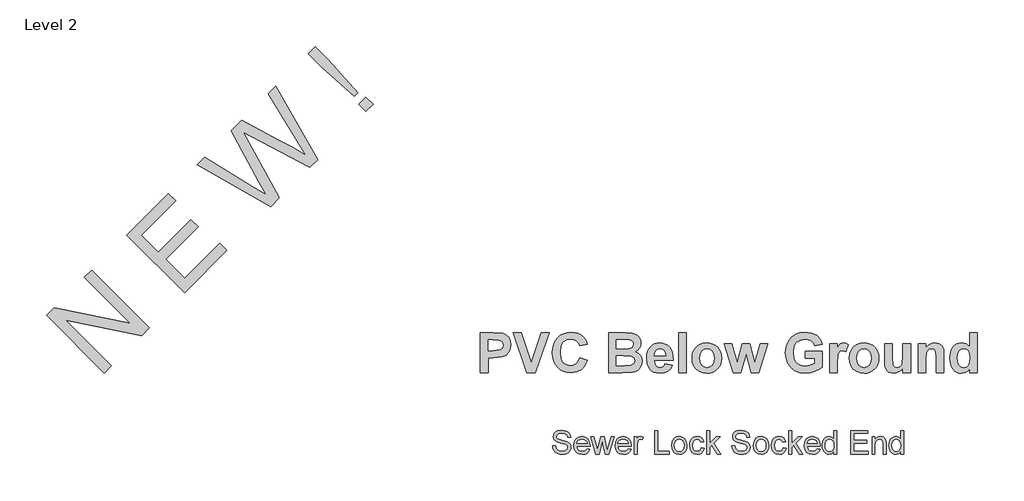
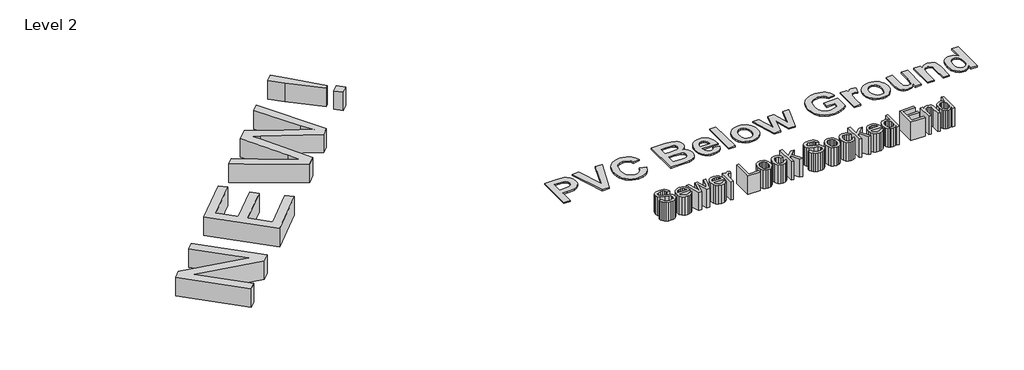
# One storey, part 2 of 2: 3 proxies.
"""IFC4 building model written with IfcOpenShell, lengths in millimetres."""

from ifc_helpers import new_model, si_unit, origin, origin_with_axes, place, context, project, spatial, polyline, outline, extrude, element, save

model = new_model("IFC4")

# Units and contexts
model_context = context("Model", 3, world=origin())
ifc_project = project(units=[si_unit("LENGTHUNIT", "METRE", prefix="MILLI")], contexts=[model_context])

# Site, building, storey
site = spatial("IfcSite", under=ifc_project)
building = spatial("IfcBuilding", under=site)
storey = spatial("IfcBuildingStorey", under=building, Name="Level 2", Elevation=0.0)

# Proxies
placement = place(None, origin())
element("IfcBuildingElementProxy", 1, Name="Rockwell 500", ObjectType="Rockwell 500", at=placement, inside=storey, context=model_context, shape_type="SweptSolid", body=[
    extrude(outline(polyline([(16072.9553239, 8605.109565), (15702.809582, 8975.2553069), (15752.3310338, 9024.7767587), (16238.9606286, 8924.9205466), (15945.7177251, 9218.16345), (15991.9859429, 9264.4316678), (16362.1316848, 8894.2859259), (16312.610233, 8844.7644741), (15825.8902706, 8944.7110538), (16119.2235416, 8651.3777827), (16072.9553239, 8605.109565)])), origin_with_axes(), (0.0, 0.0, 1.0), 150.0),
    extrude(outline(polyline([(16587.6892463, 9119.8434873), (16217.5435043, 9489.9892293), (16483.5857563, 9756.0314813), (16529.8539741, 9709.7632635), (16310.0799398, 9489.9892293), (16419.966957, 9380.1022121), (16628.1739368, 9588.309192), (16674.4421545, 9542.0409742), (16466.2351747, 9333.8339944), (16587.6892463, 9212.3799228), (16813.2468077, 9437.9374843), (16859.5150255, 9391.6692666), (16587.6892463, 9119.8434873)])), origin_with_axes(), (0.0, 0.0, 1.0), 150.0),
    extrude(outline(polyline([(17139.7449927, 9671.8992338), (16668.6586273, 9941.1043522), (16716.3727268, 9988.8184518), (17018.2005535, 9804.1070513), (17111.3695623, 9747.0850876), (17064.288036, 9832.8439521), (16885.7216332, 10158.1673581), (16954.4913865, 10226.9371114), (17190.4412235, 10097.6210575), (17281.0573472, 10052.6857621), (17365.8447599, 10001.5602852), (17310.4494132, 10092.0182656), (17124.1113957, 10396.5571206), (17171.8254952, 10444.2712201), (17440.9402461, 9973.0944871), (17391.5091619, 9923.663403), (17017.2065098, 10120.4840636), (16964.9740296, 10147.9558179), (16999.0426196, 10086.0540031), (17195.5921774, 9727.7464185), (17139.7449927, 9671.8992338)])), origin_with_axes(), (0.0, 0.0, 1.0), 150.0),
    extrude(outline(polyline([(17674.9923631, 10380.6524208), (17463.6225169, 10568.8881582), (17380.0324751, 10652.4782), (17426.3006928, 10698.7464177), (17509.8907346, 10615.1563759), (17698.126472, 10403.7865296), (17674.9923631, 10380.6524208)])), origin_with_axes(), (0.0, 0.0, 1.0), 150.0),
    extrude(outline(polyline([(17750.178217, 10282.3324581), (17703.9099992, 10328.6006758), (17750.178217, 10374.8688935), (17796.4464347, 10328.6006758), (17750.178217, 10282.3324581)])), origin_with_axes(), (0.0, 0.0, 1.0), 150.0),
])
element("IfcBuildingElementProxy", 2, Name="Arial 150", ObjectType="Arial 150", at=placement, inside=storey, context=model_context, shape_type="SweptSolid", body=[
    extrude(outline(polyline([(18947.1802626, 8137.8240171), (18966.0158207, 8137.8240171), (18972.0858736, 8118.9700649), (18986.911518, 8107.0506882), (19009.4994725, 8102.5073456), (19029.1811593, 8105.9470423), (19041.8914822, 8115.4016095), (19046.0669429, 8128.0383561), (19042.9399459, 8139.7921858), (19030.1376525, 8148.3454422), (19002.7120497, 8155.5375352), (18973.1895196, 8164.8265556), (18957.1682587, 8178.8428596), (18951.8891521, 8197.5680532), (18953.5216285, 8208.5999145), (18958.4190575, 8218.8868148), (18966.4526806, 8227.6056181), (18977.493739, 8233.9331884), (19005.4159824, 8239.0651422), (19035.214424, 8233.6940651), (19046.63716, 8227.0629921), (19055.0800517, 8217.9119275), (19060.4235377, 8206.8110883), (19062.5480562, 8194.3306916), (19043.7124981, 8194.3306916), (19040.2544073, 8205.5694865), (19033.0439202, 8213.6812845), (19021.7775341, 8218.5925092), (19006.1517464, 8220.2295841), (18990.1580766, 8218.6109033), (18979.1859961, 8213.7548609), (18972.8400317, 8206.6087532), (18970.7247103, 8198.1198761), (18972.2238294, 8190.8817979), (18976.7211868, 8185.0600653), (19007.4761216, 8174.5386403), (19040.8062303, 8165.084073), (19051.5437861, 8158.2506649), (19059.0347832, 8149.8169702), (19063.4355716, 8139.8749593), (19064.902501, 8128.5166027), (19063.2148424, 8116.9053272), (19058.1518664, 8105.9838305), (19049.9205068, 8096.5844455), (19038.7276971, 8089.5395053), (19025.2678146, 8085.1387169), (19010.2352365, 8083.6717874), (18991.781356, 8085.25368), (18976.5924281, 8089.9993578), (18964.493709, 8097.9272148), (18955.3104547, 8109.0556451), (18949.4151457, 8122.6120966), (18947.1802626, 8137.8240171)])), origin_with_axes(), (0.0, 0.0, 1.0), 150.0),
    extrude(outline(polyline([(19168.2773417, 8118.988459), (19186.7450178, 8116.6340142), (19180.0909522, 8102.7188777), (19169.4729581, 8092.3170143), (19155.1301589, 8085.8330942), (19137.3016777, 8083.6717874), (19115.2011668, 8087.4011912), (19098.1958216, 8098.5894024), (19087.3524998, 8116.509854), (19083.7380592, 8140.4359793), (19087.389288, 8165.1668464), (19098.3429744, 8183.6621137), (19115.1183934, 8195.1952143), (19136.2348199, 8199.0395811), (19156.6936573, 8195.2044113), (19173.0414135, 8183.6989019), (19183.7605751, 8165.2404228), (19187.333629, 8140.5463439), (19187.2232644, 8135.4695724), (19102.5736173, 8135.4695724), (19105.8339715, 8121.3704949), (19113.4077421, 8111.0054197), (19124.3384359, 8104.6318641), (19137.6695597, 8102.5073456), (19156.1372358, 8106.4436829), (19168.2773417, 8118.988459)]), holes=[polyline([(19102.5736173, 8154.3051305), (19168.4980709, 8154.3051305), (19165.950488, 8164.2563385), (19160.95649, 8171.3748551), (19149.9752124, 8177.996731), (19136.1612435, 8180.204023), (19123.4647161, 8178.4427879), (19112.9662837, 8173.1590828), (19105.6684246, 8164.9231246), (19102.5736173, 8154.3051305)])]), origin_with_axes(), (0.0, 0.0, 1.0), 150.0),
    extrude(outline(polyline([(19224.5264987, 8086.0262322), (19190.8652962, 8196.6851364), (19210.4366183, 8196.6851364), (19229.5296939, 8132.1218462), (19235.2318648, 8109.0556451), (19239.9039661, 8131.2757176), (19255.0974925, 8196.6851364), (19277.5382942, 8196.6851364), (19292.6582442, 8131.4596586), (19296.8153108, 8111.3365135), (19302.7749991, 8132.5633046), (19321.9048628, 8196.6851364), (19341.5497614, 8196.6851364), (19307.6310414, 8086.0262322), (19284.8591459, 8086.0262322), (19270.4013835, 8150.9206162), (19266.2075288, 8171.1541259), (19247.5559116, 8086.0262322), (19224.5264987, 8086.0262322)])), origin_with_axes(), (0.0, 0.0, 1.0), 150.0),
    extrude(outline(polyline([(19431.9751558, 8118.988459), (19450.442832, 8116.6340142), (19443.7887664, 8102.7188777), (19433.1707723, 8092.3170143), (19418.827973, 8085.8330942), (19400.9994918, 8083.6717874), (19378.898981, 8087.4011912), (19361.8936357, 8098.5894024), (19351.0503139, 8116.509854), (19347.4358733, 8140.4359793), (19351.0871021, 8165.1668464), (19362.0407885, 8183.6621137), (19378.8162075, 8195.1952143), (19399.932634, 8199.0395811), (19420.3914715, 8195.2044113), (19436.7392276, 8183.6989019), (19447.4583893, 8165.2404228), (19451.0314432, 8140.5463439), (19450.9210786, 8135.4695724), (19366.2714315, 8135.4695724), (19369.5317856, 8121.3704949), (19377.1055562, 8111.0054197), (19388.03625, 8104.6318641), (19401.3673738, 8102.5073456), (19419.83505, 8106.4436829), (19431.9751558, 8118.988459)]), holes=[polyline([(19366.2714315, 8154.3051305), (19432.195885, 8154.3051305), (19429.6483022, 8164.2563385), (19424.6543041, 8171.3748551), (19413.6730265, 8177.996731), (19399.8590576, 8180.204023), (19387.1625303, 8178.4427879), (19376.6640978, 8173.1590828), (19369.3662388, 8164.9231246), (19366.2714315, 8154.3051305)])]), origin_with_axes(), (0.0, 0.0, 1.0), 150.0),
    extrude(outline(polyline([(19469.8670013, 8086.0262322), (19469.8670013, 8196.6851364), (19486.3481147, 8196.6851364), (19486.3481147, 8180.3143876), (19498.0467621, 8195.3975494), (19509.818986, 8199.0395811), (19528.7281205, 8193.2270456), (19522.4373384, 8176.341262), (19509.1935866, 8180.204023), (19498.5434028, 8176.4884148), (19491.75598, 8166.187719), (19488.7025595, 8144.1883757), (19488.7025595, 8086.0262322), (19469.8670013, 8086.0262322)])), origin_with_axes(), (0.0, 0.0, 1.0), 150.0),
    extrude(outline(polyline([(19601.7159084, 8086.0262322), (19601.7159084, 8236.7106974), (19620.5514665, 8236.7106974), (19620.5514665, 8104.8617904), (19695.8936991, 8104.8617904), (19695.8936991, 8086.0262322), (19601.7159084, 8086.0262322)])), origin_with_axes(), (0.0, 0.0, 1.0), 150.0),
    extrude(outline(polyline([(19710.0203678, 8141.3556843), (19714.0946609, 8168.036326), (19726.3175401, 8186.7891107), (19741.419096, 8195.9769635), (19759.5004961, 8199.0395811), (19779.2879489, 8195.3101774), (19795.0930791, 8184.1219662), (19805.4535558, 8166.3578644), (19808.9070481, 8142.9007887), (19807.3803378, 8123.8720925), (19802.8002069, 8109.3867389), (19795.3000128, 8098.5388186), (19785.0131125, 8090.4224221), (19772.7948317, 8085.3594461), (19759.5004961, 8083.6717874), (19739.47392, 8087.3873956), (19723.6871839, 8098.5342201), (19713.4370718, 8116.6708024), (19710.0203678, 8141.3556843)]), holes=[polyline([(19728.8559259, 8141.3924725), (19731.0356267, 8124.3457405), (19737.5747292, 8112.2010362), (19747.4155726, 8104.9307682), (19759.5004961, 8102.5073456), (19771.5302374, 8104.9445638), (19781.3526866, 8112.2562185), (19787.8917891, 8124.5618712), (19790.0714899, 8141.9810837), (19787.8779935, 8158.5311749), (19781.2975043, 8170.5103324), (19771.4612595, 8177.7806003), (19759.5004961, 8180.204023), (19747.4155726, 8177.7897974), (19737.5747292, 8170.5471206), (19731.0356267, 8158.4300074), (19728.8559259, 8141.3924725)])]), origin_with_axes(), (0.0, 0.0, 1.0), 150.0),
    extrude(outline(polyline([(19900.7303941, 8126.0517933), (19919.5659522, 8123.6973485), (19914.3144367, 8106.9449222), (19904.4460022, 8094.285183), (19890.8895507, 8086.3251363), (19874.5739842, 8083.6717874), (19854.538211, 8087.3736), (19838.8710366, 8098.4790378), (19828.7588802, 8116.500657), (19825.3881614, 8140.9510141), (19826.8274998, 8157.7126375), (19831.1455147, 8172.2393778), (19838.4111841, 8183.9702149), (19848.6934858, 8192.3441288), (19860.9945401, 8197.3657181), (19874.3164668, 8199.0395811), (19890.2319616, 8196.7403187), (19902.9560801, 8189.8425313), (19912.0841521, 8178.7141009), (19917.2115074, 8163.7229096), (19898.3759493, 8161.3684648), (19889.6387519, 8175.4767393), (19874.4636196, 8180.204023), (19862.2913241, 8177.8771694), (19852.6298232, 8170.8966085), (19846.3252455, 8158.8852614), (19844.2237196, 8141.4660489), (19846.2792602, 8123.8123116), (19852.4458822, 8111.7595778), (19861.9326391, 8104.8204036), (19873.9485848, 8102.5073456), (19883.7020562, 8103.9512824), (19891.6988911, 8108.2830929), (19897.5160251, 8115.6131417), (19900.7303941, 8126.0517933)])), origin_with_axes(), (0.0, 0.0, 1.0), 150.0),
    extrude(outline(polyline([(19936.0470656, 8086.0262322), (19936.0470656, 8236.7106974), (19954.8826238, 8236.7106974), (19954.8826238, 8155.7398703), (19997.1154768, 8196.6851364), (20023.1615221, 8196.6851364), (19980.4136342, 8155.2248355), (20025.5159668, 8086.0262322), (20003.5166235, 8086.0262322), (19966.912365, 8142.1282365), (19954.8826238, 8130.4663772), (19954.8826238, 8086.0262322), (19936.0470656, 8086.0262322)])), origin_with_axes(), (0.0, 0.0, 1.0), 150.0),
    extrude(outline(polyline([(20096.1493099, 8137.8240171), (20114.9848681, 8137.8240171), (20121.054921, 8118.9700649), (20135.8805654, 8107.0506882), (20158.4685199, 8102.5073456), (20178.1502066, 8105.9470423), (20190.8605296, 8115.4016095), (20195.0359902, 8128.0383561), (20191.9089932, 8139.7921858), (20179.1066998, 8148.3454422), (20151.6810971, 8155.5375352), (20122.158567, 8164.8265556), (20106.1373061, 8178.8428596), (20100.8581994, 8197.5680532), (20102.4906758, 8208.5999145), (20107.3881049, 8218.8868148), (20115.4217279, 8227.6056181), (20126.4627863, 8233.9331884), (20154.3850297, 8239.0651422), (20184.1834713, 8233.6940651), (20195.6062073, 8227.0629921), (20204.0490991, 8217.9119275), (20209.3925851, 8206.8110883), (20211.5171036, 8194.3306916), (20192.6815454, 8194.3306916), (20189.2234547, 8205.5694865), (20182.0129676, 8213.6812845), (20170.7465815, 8218.5925092), (20155.1207937, 8220.2295841), (20139.127124, 8218.6109033), (20128.1550435, 8213.7548609), (20121.8090791, 8206.6087532), (20119.6937576, 8198.1198761), (20121.1928767, 8190.8817979), (20125.6902341, 8185.0600653), (20156.4451689, 8174.5386403), (20189.7752777, 8165.084073), (20200.5128334, 8158.2506649), (20208.0038305, 8149.8169702), (20212.4046189, 8139.8749593), (20213.8715484, 8128.5166027), (20212.1838897, 8116.9053272), (20207.1209137, 8105.9838305), (20198.8895541, 8096.5844455), (20187.6967444, 8089.5395053), (20174.2368619, 8085.1387169), (20159.2042839, 8083.6717874), (20140.7504033, 8085.25368), (20125.5614754, 8089.9993578), (20113.4627563, 8097.9272148), (20104.279502, 8109.0556451), (20098.384193, 8122.6120966), (20096.1493099, 8137.8240171)])), origin_with_axes(), (0.0, 0.0, 1.0), 150.0),
    extrude(outline(polyline([(20235.0615513, 8141.3556843), (20239.1358444, 8168.036326), (20251.3587237, 8186.7891107), (20266.4602796, 8195.9769635), (20284.5416796, 8199.0395811), (20304.3291324, 8195.3101774), (20320.1342627, 8184.1219662), (20330.4947394, 8166.3578644), (20333.9482316, 8142.9007887), (20332.4215213, 8123.8720925), (20327.8413905, 8109.3867389), (20320.3411963, 8098.5388186), (20310.054296, 8090.4224221), (20297.8360152, 8085.3594461), (20284.5416796, 8083.6717874), (20264.5151035, 8087.3873956), (20248.7283674, 8098.5342201), (20238.4782553, 8116.6708024), (20235.0615513, 8141.3556843)]), holes=[polyline([(20253.8971094, 8141.3924725), (20256.0768103, 8124.3457405), (20262.6159127, 8112.2010362), (20272.4567561, 8104.9307682), (20284.5416796, 8102.5073456), (20296.5714209, 8104.9445638), (20306.3938701, 8112.2562185), (20312.9329726, 8124.5618712), (20315.1126734, 8141.9810837), (20312.919177, 8158.5311749), (20306.3386878, 8170.5103324), (20296.502443, 8177.7806003), (20284.5416796, 8180.204023), (20272.4567561, 8177.7897974), (20262.6159127, 8170.5471206), (20256.0768103, 8158.4300074), (20253.8971094, 8141.3924725)])]), origin_with_axes(), (0.0, 0.0, 1.0), 150.0),
    extrude(outline(polyline([(20425.7715776, 8126.0517933), (20444.6071357, 8123.6973485), (20439.3556202, 8106.9449222), (20429.4871857, 8094.285183), (20415.9307342, 8086.3251363), (20399.6151677, 8083.6717874), (20379.5793946, 8087.3736), (20363.9122201, 8098.4790378), (20353.8000637, 8116.500657), (20350.429345, 8140.9510141), (20351.8686833, 8157.7126375), (20356.1866982, 8172.2393778), (20363.4523676, 8183.9702149), (20373.7346694, 8192.3441288), (20386.0357236, 8197.3657181), (20399.3576503, 8199.0395811), (20415.2731451, 8196.7403187), (20427.9972636, 8189.8425313), (20437.1253357, 8178.7141009), (20442.252691, 8163.7229096), (20423.4171328, 8161.3684648), (20414.6799354, 8175.4767393), (20399.5048031, 8180.204023), (20387.3325076, 8177.8771694), (20377.6710067, 8170.8966085), (20371.366429, 8158.8852614), (20369.2649031, 8141.4660489), (20371.3204438, 8123.8123116), (20377.4870657, 8111.7595778), (20386.9738227, 8104.8204036), (20398.9897683, 8102.5073456), (20408.7432397, 8103.9512824), (20416.7400746, 8108.2830929), (20422.5572086, 8115.6131417), (20425.7715776, 8126.0517933)])), origin_with_axes(), (0.0, 0.0, 1.0), 150.0),
    extrude(outline(polyline([(20461.0882491, 8086.0262322), (20461.0882491, 8236.7106974), (20479.9238073, 8236.7106974), (20479.9238073, 8155.7398703), (20522.1566603, 8196.6851364), (20548.2027056, 8196.6851364), (20505.4548177, 8155.2248355), (20550.5571503, 8086.0262322), (20528.557807, 8086.0262322), (20491.9535485, 8142.1282365), (20479.9238073, 8130.4663772), (20479.9238073, 8086.0262322), (20461.0882491, 8086.0262322)])), origin_with_axes(), (0.0, 0.0, 1.0), 150.0),
    extrude(outline(polyline([(20644.5142119, 8118.988459), (20662.9818881, 8116.6340142), (20656.3278225, 8102.7188777), (20645.7098284, 8092.3170143), (20631.3670291, 8085.8330942), (20613.5385479, 8083.6717874), (20591.4380371, 8087.4011912), (20574.4326918, 8098.5894024), (20563.58937, 8116.509854), (20559.9749294, 8140.4359793), (20563.6261582, 8165.1668464), (20574.5798446, 8183.6621137), (20591.3552636, 8195.1952143), (20612.4716901, 8199.0395811), (20632.9305276, 8195.2044113), (20649.2782837, 8183.6989019), (20659.9974454, 8165.2404228), (20663.5704993, 8140.5463439), (20663.4601347, 8135.4695724), (20578.8104876, 8135.4695724), (20582.0708418, 8121.3704949), (20589.6446123, 8111.0054197), (20600.5753061, 8104.6318641), (20613.9064299, 8102.5073456), (20632.3741061, 8106.4436829), (20644.5142119, 8118.988459)]), holes=[polyline([(20578.8104876, 8154.3051305), (20644.7349411, 8154.3051305), (20642.1873583, 8164.2563385), (20637.1933602, 8171.3748551), (20626.2120826, 8177.996731), (20612.3981137, 8180.204023), (20599.7015864, 8178.4427879), (20589.2031539, 8173.1590828), (20581.9052949, 8164.9231246), (20578.8104876, 8154.3051305)])]), origin_with_axes(), (0.0, 0.0, 1.0), 150.0),
    extrude(outline(polyline([(20750.6849557, 8086.0262322), (20750.6849557, 8103.7949326), (20738.2229531, 8088.7025737), (20720.9968787, 8083.6717874), (20708.8199847, 8085.4928033), (20697.6731602, 8090.955851), (20688.236987, 8099.6792528), (20681.1920468, 8111.2813312), (20676.805054, 8125.2930367), (20675.3427231, 8141.2453197), (20680.7321943, 8171.2277023), (20687.4644348, 8183.1194878), (20696.8822139, 8191.8658822), (20708.2727602, 8197.2461564), (20720.9233023, 8199.0395811), (20738.2873325, 8193.9076273), (20750.6849557, 8180.571905), (20750.6849557, 8236.7106974), (20769.5205139, 8236.7106974), (20769.5205139, 8086.0262322), (20750.6849557, 8086.0262322)]), holes=[polyline([(20694.1782813, 8141.3188961), (20696.3027998, 8124.2813612), (20702.6763553, 8112.164248), (20711.9377846, 8104.9215712), (20722.7259241, 8102.5073456), (20733.5094651, 8104.8112066), (20742.5363695, 8111.7227896), (20748.6478092, 8123.3708533), (20750.6849557, 8139.8841563), (20748.611021, 8157.9379652), (20742.3892167, 8170.4551501), (20733.132386, 8177.7668048), (20721.9533719, 8180.204023), (20711.0548678, 8177.8633738), (20702.1245324, 8170.8414262), (20696.164844, 8158.7794953), (20694.1782813, 8141.3188961)])]), origin_with_axes(), (0.0, 0.0, 1.0), 150.0),
    extrude(outline(polyline([(20858.9894151, 8086.0262322), (20858.9894151, 8236.7106974), (20967.2938745, 8236.7106974), (20967.2938745, 8217.8751393), (20877.8249732, 8217.8751393), (20877.8249732, 8173.1406887), (20962.5849849, 8173.1406887), (20962.5849849, 8154.3051305), (20877.8249732, 8154.3051305), (20877.8249732, 8104.8617904), (20969.6483192, 8104.8617904), (20969.6483192, 8086.0262322), (20858.9894151, 8086.0262322)])), origin_with_axes(), (0.0, 0.0, 1.0), 150.0),
    extrude(outline(polyline([(20995.5472117, 8086.0262322), (20995.5472117, 8196.6851364), (21014.3827699, 8196.6851364), (21014.3827699, 8181.2340926), (21028.78535, 8194.588209), (21048.4486426, 8199.0395811), (21066.2357371, 8195.4527317), (21078.3758429, 8186.0349526), (21084.0228315, 8172.1841955), (21085.0161129, 8153.9740367), (21085.0161129, 8086.0262322), (21066.1805548, 8086.0262322), (21066.1805548, 8151.435651), (21064.010051, 8168.1007053), (21056.3397114, 8176.9114791), (21043.4086593, 8180.204023), (21032.3767979, 8178.355416), (21022.9728144, 8172.8095949), (21016.530281, 8162.0950318), (21014.3827699, 8144.7401986), (21014.3827699, 8086.0262322), (20995.5472117, 8086.0262322)])), origin_with_axes(), (0.0, 0.0, 1.0), 150.0),
    extrude(outline(polyline([(21179.1939037, 8086.0262322), (21179.1939037, 8103.7949326), (21166.7319011, 8088.7025737), (21149.5058267, 8083.6717874), (21137.3289326, 8085.4928033), (21126.1821082, 8090.955851), (21116.745935, 8099.6792528), (21109.7009948, 8111.2813312), (21105.314002, 8125.2930367), (21103.8516711, 8141.2453197), (21109.2411423, 8171.2277023), (21115.9733828, 8183.1194878), (21125.3911619, 8191.8658822), (21136.7817082, 8197.2461564), (21149.4322503, 8199.0395811), (21166.7962805, 8193.9076273), (21179.1939037, 8180.571905), (21179.1939037, 8236.7106974), (21198.0294619, 8236.7106974), (21198.0294619, 8086.0262322), (21179.1939037, 8086.0262322)]), holes=[polyline([(21122.6872292, 8141.3188961), (21124.8117478, 8124.2813612), (21131.1853033, 8112.164248), (21140.4467326, 8104.9215712), (21151.2348721, 8102.5073456), (21162.018413, 8104.8112066), (21171.0453175, 8111.7227896), (21177.1567572, 8123.3708533), (21179.1939037, 8139.8841563), (21177.119969, 8157.9379652), (21170.8981647, 8170.4551501), (21161.641334, 8177.7668048), (21150.4623199, 8180.204023), (21139.5638158, 8177.8633738), (21130.6334803, 8170.8414262), (21124.673792, 8158.7794953), (21122.6872292, 8141.3188961)])]), origin_with_axes(), (0.0, 0.0, 1.0), 150.0),
])
element("IfcBuildingElementProxy", 3, Name="Arial 250", ObjectType="Arial 250", at=placement, inside=storey, context=model_context, shape_type="SweptSolid", body=[
    extrude(outline(polyline([(18485.0135269, 8607.9195192), (18485.0135269, 8862.9843692), (18567.1884376, 8862.9843692), (18628.1079442, 8859.1887613), (18648.1534983, 8850.134655), (18664.6406701, 8834.3591597), (18675.6716555, 8812.4474317), (18679.3486507, 8784.9846272), (18677.1898987, 8763.499905), (18670.7136427, 8745.7317156), (18660.9083223, 8731.5298161), (18648.7623771, 8720.7439637), (18621.7186709, 8708.6929086), (18567.6312585, 8705.0870811), (18533.5973078, 8705.0870811), (18533.5973078, 8607.9195192), (18485.0135269, 8607.9195192)]), holes=[polyline([(18533.5973078, 8818.4492367), (18533.5973078, 8749.6222137), (18563.7723905, 8749.6222137), (18607.326991, 8753.4178216), (18624.5337468, 8765.3423563), (18629.207089, 8774.1276071), (18630.7648697, 8784.2255056), (18628.5744877, 8796.2923756), (18622.0033415, 8806.0502509), (18612.0952234, 8813.0404954), (18599.8939256, 8816.8044733), (18560.2298231, 8818.4492367), (18533.5973078, 8818.4492367)])]), origin_with_axes(), (0.0, 0.0, 1.0), 10.0),
    extrude(outline(polyline([(18781.5137629, 8607.9195192), (18695.5432443, 8862.9843692), (18746.7839508, 8862.9843692), (18810.9297241, 8672.6978938), (18875.2652777, 8862.9843692), (18926.3162038, 8862.9843692), (18835.7909557, 8607.9195192), (18781.5137629, 8607.9195192)])), origin_with_axes(), (0.0, 0.0, 1.0), 10.0),
    extrude(outline(polyline([(19120.6513276, 8705.0870811), (19169.2351086, 8688.8924875), (19153.9103417, 8653.1109756), (19143.3893911, 8639.1759548), (19130.962729, 8627.8780907), (19100.597866, 8612.9091621), (19063.0213479, 8607.9195192), (19038.6938736, 8610.0505949), (19016.6358565, 8616.4438219), (18996.8472966, 8627.0992003), (18979.328194, 8642.0167301), (18964.9918667, 8660.6310238), (18954.7516329, 8682.3766939), (18948.6074926, 8707.2537406), (18946.5594459, 8735.2621638), (18948.6252846, 8764.7967377), (18954.8228006, 8790.8361893), (18965.1519939, 8813.3805187), (18979.6128646, 8832.4297257), (18997.4423372, 8847.5686659), (19017.8773366, 8858.3821947), (19040.9178626, 8864.8703119), (19066.5639152, 8867.0330176), (19088.9896318, 8865.2498727), (19109.2012438, 8859.9004378), (19127.1987512, 8850.984713), (19142.982154, 8838.5026984), (19158.3069209, 8817.9906007), (19169.2351086, 8790.1086978), (19120.6513276, 8782.011401), (19113.2103547, 8798.8148734), (19100.5029758, 8811.6487726), (19083.5097229, 8819.785607), (19063.2111283, 8822.4978851), (19035.7641387, 8817.5715024), (19014.0263761, 8802.7923542), (19005.7649983, 8791.4154149), (18999.8640141, 8776.990128), (18995.1432268, 8738.9945116), (18999.7216788, 8698.9192183), (19005.4447439, 8683.9344747), (19013.4570349, 8672.318333), (19034.5305662, 8657.4205721), (19061.1235439, 8652.4546518), (19081.2007282, 8655.6255659), (19098.2888712, 8665.1383081), (19111.6762965, 8681.4673296), (19120.6513276, 8705.0870811)])), origin_with_axes(), (0.0, 0.0, 1.0), 10.0),
    extrude(outline(polyline([(19306.8891546, 8862.9843692), (19411.5846721, 8862.9843692), (19457.9227184, 8860.453964), (19485.2510952, 8849.8578919), (19496.2978957, 8840.4637624), (19505.3361869, 8828.4127074), (19511.3617145, 8814.2187154), (19513.3702236, 8798.395775), (19510.9742462, 8781.1573892), (19503.7863137, 8765.3739864), (19492.4864727, 8752.200064), (19477.7547696, 8742.7901195), (19496.3848783, 8733.6490305), (19510.1439569, 8719.7634316), (19518.6366296, 8702.0664099), (19521.4675205, 8681.4910521), (19519.4352887, 8664.4029091), (19513.3385936, 8647.8050321), (19503.7230536, 8633.0970515), (19491.1342874, 8621.6785978), (19475.4220523, 8613.7789889), (19456.4361053, 8609.6275428), (19394.0616157, 8607.9195192), (19306.8891546, 8607.9195192), (19306.8891546, 8862.9843692)]), holes=[polyline([(19355.4729355, 8818.4492367), (19355.4729355, 8761.7681589), (19392.5433726, 8761.7681589), (19433.662458, 8762.5905406), (19446.6070624, 8765.5479518), (19456.4677354, 8771.3836989), (19462.7067659, 8779.8131114), (19464.7864427, 8790.5515187), (19462.9914365, 8800.8233826), (19457.6064178, 8808.991847), (19448.6946468, 8814.7089814), (19436.3193835, 8817.626855), (19387.9886431, 8818.4492367), (19355.4729355, 8818.4492367)]), polyline([(19355.4729355, 8717.2330264), (19355.4729355, 8652.4546518), (19406.8401623, 8652.4546518), (19444.9227614, 8653.9728949), (19456.1672498, 8657.3652195), (19465.1027433, 8663.620065), (19470.9384905, 8672.6109112), (19472.8837395, 8684.2112378), (19471.3813114, 8694.2695987), (19466.874027, 8702.6831961), (19449.540751, 8713.7537191), (19400.3243687, 8717.2330264), (19355.4729355, 8717.2330264)])]), origin_with_axes(), (0.0, 0.0, 1.0), 10.0),
    extrude(outline(polyline([(19667.2188633, 8664.600597), (19715.8026443, 8656.5033002), (19703.9729997, 8633.8324506), (19686.8295041, 8617.3136488), (19664.5461228, 8607.2315653), (19637.2968211, 8603.8708708), (19615.2941567, 8605.8517037), (19596.3517011, 8611.7942023), (19580.4694543, 8621.6983666), (19567.6474164, 8635.5641967), (19554.2678986, 8664.2684813), (19549.8080594, 8699.6467098), (19551.2867649, 8721.4872702), (19555.7228816, 8740.8290554), (19563.1164095, 8757.6720654), (19573.4673485, 8772.0163002), (19586.0798372, 8783.4742915), (19600.2580142, 8791.658571), (19616.0018794, 8796.5691387), (19633.3114329, 8798.2059946), (19652.5464666, 8796.5256474), (19669.6385633, 8791.4846057), (19684.5877232, 8783.0828694), (19697.393946, 8771.3204388), (19707.598596, 8756.0866084), (19714.7430371, 8737.270673), (19718.8272693, 8714.8726327), (19719.8512927, 8688.8924875), (19598.3918403, 8688.8924875), (19601.5074018, 8668.427835), (19609.8419241, 8653.0872531), (19622.1302046, 8643.5033432), (19637.1070407, 8640.3087065), (19647.3077369, 8641.7478745), (19655.7687795, 8646.0653785), (19662.4269084, 8653.5775191), (19667.2188633, 8664.600597)]), holes=[polyline([(19671.2675117, 8717.2330264), (19668.3101006, 8736.4403838), (19660.4500292, 8750.4129653), (19649.0315755, 8758.9293605), (19635.3990172, 8761.7681589), (19621.0073373, 8758.7791177), (19609.335843, 8749.8119941), (19601.6813671, 8735.6575397), (19599.214222, 8717.2330264), (19671.2675117, 8717.2330264)])]), origin_with_axes(), (0.0, 0.0, 1.0), 10.0),
    extrude(outline(polyline([(19756.2891284, 8607.9195192), (19756.2891284, 8862.9843692), (19804.8729093, 8862.9843692), (19804.8729093, 8607.9195192), (19756.2891284, 8607.9195192)])), origin_with_axes(), (0.0, 0.0, 1.0), 10.0),
    extrude(outline(polyline([(19841.3107451, 8703.6953582), (19844.3076938, 8727.7895608), (19853.29854, 8751.1088268), (19867.7772025, 8771.3283463), (19887.2376005, 8786.1233095), (19910.4698838, 8795.1853233), (19936.2642024, 8798.2059946), (19956.2563808, 8796.4940173), (19974.354709, 8791.3580854), (19990.559187, 8782.7981989), (20004.8698149, 8770.8143577), (20016.5630548, 8756.2131286), (20024.9153691, 8739.8010783), (20029.9267576, 8721.5782067), (20031.5972204, 8701.5445138), (20029.9089657, 8681.3506937), (20024.8442014, 8662.9637411), (20016.4029276, 8646.383656), (20004.5851443, 8631.6104385), (19990.2092794, 8619.4743776), (19974.093761, 8610.8057627), (19956.2385889, 8605.6045938), (19936.6437631, 8603.8708708), (19911.8695142, 8606.7571143), (19888.2813927, 8615.4158448), (19868.0381506, 8629.6572819), (19853.29854, 8649.2916452), (19844.3076938, 8674.0579867), (19841.3107451, 8703.6953582)]), holes=[polyline([(19889.894526, 8701.0384327), (19893.2552205, 8675.0622412), (19903.3373039, 8655.9655891), (19918.3536776, 8644.2229272), (19936.5172429, 8640.3087065), (19954.6649931, 8644.2229272), (19969.6339217, 8655.9655891), (19979.66856, 8675.1571314), (19983.0134395, 8701.4179935), (19979.66856, 8727.1095144), (19969.6339217, 8746.1112764), (19954.6649931, 8757.8539383), (19936.5172429, 8761.7681589), (19918.3536776, 8757.8539383), (19903.3373039, 8746.1112764), (19893.2552205, 8727.0146242), (19889.894526, 8701.0384327)])]), origin_with_axes(), (0.0, 0.0, 1.0), 10.0),
    extrude(outline(polyline([(20106.8767769, 8607.9195192), (20047.7918141, 8794.1573462), (20095.8062539, 8794.1573462), (20130.7891065, 8672.1285527), (20163.4945945, 8794.1573462), (20212.2048957, 8794.1573462), (20244.1512621, 8672.1285527), (20279.2606351, 8794.1573462), (20327.1485546, 8794.1573462), (20268.190112, 8607.9195192), (20220.4919729, 8607.9195192), (20187.4701843, 8727.6709481), (20155.2707774, 8607.9195192), (20106.8767769, 8607.9195192)])), origin_with_axes(), (0.0, 0.0, 1.0), 10.0),
    extrude(outline(polyline([(20566.0188109, 8701.0384327), (20566.0188109, 8745.5735653), (20675.332318, 8745.5735653), (20675.332318, 8643.8512739), (20655.8165675, 8628.9297904), (20629.1524221, 8615.9219259), (20598.7242989, 8606.8836346), (20567.9166148, 8603.8708708), (20531.0834033, 8608.0618545), (20499.2793722, 8620.6348057), (20473.6273889, 8640.9966605), (20455.2503207, 8668.5543552), (20444.1956128, 8701.0779703), (20440.5107101, 8736.3375861), (20444.6779713, 8773.8587515), (20457.1797547, 8806.9675228), (20477.7155749, 8834.2721771), (20505.9849462, 8854.3809913), (20533.4714733, 8863.8700111), (20566.9677129, 8867.0330176), (20609.1701281, 8861.924762), (20626.3867682, 8855.5394425), (20641.0136967, 8846.5999952), (20662.9254248, 8822.2606596), (20675.332318, 8790.1086978), (20626.7485371, 8782.011401), (20618.5721651, 8798.8148734), (20605.4298728, 8811.6487726), (20587.8593713, 8819.785607), (20566.3983717, 8822.4978851), (20534.5943406, 8817.1998491), (20521.408557, 8810.5773041), (20510.0335946, 8801.3057411), (20500.8727368, 8789.4246976), (20494.3292669, 8774.9737113), (20489.0944911, 8738.3619103), (20494.2976369, 8699.006201), (20500.8015691, 8683.5450295), (20509.9070743, 8670.8949801), (20521.1238864, 8661.0560528), (20533.9617393, 8654.0282475), (20564.5005677, 8648.4060034), (20597.9335472, 8654.5738662), (20626.7485371, 8669.5348873), (20626.7485371, 8701.0384327), (20566.0188109, 8701.0384327)])), origin_with_axes(), (0.0, 0.0, 1.0), 10.0),
    extrude(outline(polyline([(20772.4998799, 8607.9195192), (20723.916099, 8607.9195192), (20723.916099, 8794.1573462), (20772.4998799, 8794.1573462), (20772.4998799, 8768.2206923), (20791.9207403, 8792.4176926), (20811.531381, 8798.2059946), (20826.6979976, 8795.6439593), (20841.3269029, 8787.9578533), (20827.1566335, 8741.7146972), (20815.4535092, 8747.6453346), (20804.6360267, 8749.6222137), (20787.5241612, 8744.0869522), (20781.2772232, 8736.3296786), (20776.5168983, 8724.1283807), (20772.4998799, 8663.651695), (20772.4998799, 8607.9195192)])), origin_with_axes(), (0.0, 0.0, 1.0), 10.0),
    extrude(outline(polyline([(20849.4241998, 8703.6953582), (20852.4211485, 8727.7895608), (20861.4119947, 8751.1088268), (20875.8906573, 8771.3283463), (20895.3510552, 8786.1233095), (20918.5833385, 8795.1853233), (20944.3776571, 8798.2059946), (20964.3698355, 8796.4940173), (20982.4681637, 8791.3580854), (20998.6726418, 8782.7981989), (21012.9832696, 8770.8143577), (21024.6765095, 8756.2131286), (21033.0288238, 8739.8010783), (21038.0402123, 8721.5782067), (21039.7106752, 8701.5445138), (21038.0224204, 8681.3506937), (21032.9576561, 8662.9637411), (21024.5163823, 8646.383656), (21012.698599, 8631.6104385), (20998.3227342, 8619.4743776), (20982.2072157, 8610.8057627), (20964.3520436, 8605.6045938), (20944.7572179, 8603.8708708), (20919.9829689, 8606.7571143), (20896.3948474, 8615.4158448), (20876.1516053, 8629.6572819), (20861.4119947, 8649.2916452), (20852.4211485, 8674.0579867), (20849.4241998, 8703.6953582)]), holes=[polyline([(20898.0079807, 8701.0384327), (20901.3686752, 8675.0622412), (20911.4507587, 8655.9655891), (20926.4671324, 8644.2229272), (20944.6306976, 8640.3087065), (20962.7784478, 8644.2229272), (20977.7473764, 8655.9655891), (20987.7820148, 8675.1571314), (20991.1268942, 8701.4179935), (20987.7820148, 8727.1095144), (20977.7473764, 8746.1112764), (20962.7784478, 8757.8539383), (20944.6306976, 8761.7681589), (20926.4671324, 8757.8539383), (20911.4507587, 8746.1112764), (20901.3686752, 8727.0146242), (20898.0079807, 8701.0384327)])]), origin_with_axes(), (0.0, 0.0, 1.0), 10.0),
    extrude(outline(polyline([(21193.5593148, 8607.9195192), (21193.5593148, 8635.247896), (21182.3701791, 8622.1925864), (21168.1603721, 8612.2528382), (21151.989501, 8605.9663627), (21134.917173, 8603.8708708), (21118.0425329, 8605.9268251), (21102.9708066, 8612.0946879), (21090.7616012, 8621.986991), (21082.474524, 8635.216266), (21077.7300142, 8652.9686403), (21076.1485109, 8676.4302416), (21076.1485109, 8794.1573462), (21124.7322918, 8794.1573462), (21124.7322918, 8708.0603073), (21127.3575873, 8659.6346767), (21136.9731273, 8645.5276674), (21154.7175941, 8640.3087065), (21166.3495508, 8642.0483601), (21176.7004898, 8647.267321), (21184.8768618, 8655.0720397), (21189.9851174, 8664.5689669), (21193.5593148, 8715.145442), (21193.5593148, 8794.1573462), (21242.1430958, 8794.1573462), (21242.1430958, 8607.9195192), (21193.5593148, 8607.9195192)])), origin_with_axes(), (0.0, 0.0, 1.0), 10.0),
    extrude(outline(polyline([(21456.7214617, 8607.9195192), (21408.1376807, 8607.9195192), (21408.1376807, 8703.6320981), (21405.1011944, 8742.9798999), (21395.1693538, 8756.8338687), (21378.6584594, 8761.7681589), (21366.8999825, 8760.0047827), (21356.4225232, 8754.7146543), (21348.135446, 8746.5066522), (21342.9481152, 8735.9896553), (21339.3106577, 8692.8778758), (21339.3106577, 8607.9195192), (21290.7268767, 8607.9195192), (21290.7268767, 8794.1573462), (21339.3106577, 8794.1573462), (21339.3106577, 8767.3350505), (21351.602892, 8780.8410885), (21365.3896469, 8790.4882586), (21380.6709224, 8796.2765606), (21397.4467185, 8798.2059946), (21425.6607371, 8792.3228024), (21445.0183373, 8777.3301512), (21454.1594263, 8756.6757183), (21456.7214617, 8723.5590395), (21456.7214617, 8607.9195192)])), origin_with_axes(), (0.0, 0.0, 1.0), 10.0),
    extrude(outline(polyline([(21671.2998275, 8607.9195192), (21622.7160466, 8607.9195192), (21622.7160466, 8634.741815), (21610.8626794, 8621.1171642), (21597.0640633, 8611.4937167), (21582.23747, 8605.7765823), (21567.3001714, 8603.8708708), (21552.5704452, 8605.4840042), (21538.93591, 8610.3234042), (21526.3965658, 8618.389071), (21514.9524126, 8629.6810045), (21505.4179247, 8643.8631352), (21498.6075762, 8660.5993937), (21493.1592974, 8701.7342942), (21498.5996687, 8743.3278306), (21505.4001328, 8759.8782625), (21514.9207826, 8773.5978035), (21526.5211092, 8784.3638871), (21539.5606038, 8792.0539468), (21554.0392664, 8796.6679827), (21569.9570969, 8798.2059946), (21584.6888, 8796.6126301), (21598.392526, 8791.8325364), (21622.7160466, 8772.7121617), (21622.7160466, 8862.9843692), (21671.2998275, 8862.9843692), (21671.2998275, 8607.9195192)]), holes=[polyline([(21541.7430783, 8704.5810001), (21543.7674025, 8678.1382651), (21549.8403751, 8660.1723878), (21563.8683093, 8645.2746269), (21582.5458631, 8640.3087065), (21598.0445953, 8644.0331468), (21611.0129222, 8655.2064675), (21619.7902655, 8673.7812236), (21622.7160466, 8699.70997), (21619.8772482, 8728.1058615), (21611.360853, 8747.2499587), (21598.4004335, 8758.1386089), (21582.2295624, 8761.7681589), (21566.4145296, 8758.1781465), (21553.3829425, 8747.4081091), (21544.6530444, 8729.5213069), (21541.7430783, 8704.5810001)])]), origin_with_axes(), (0.0, 0.0, 1.0), 10.0),
])

save(model, "model.ifc")
